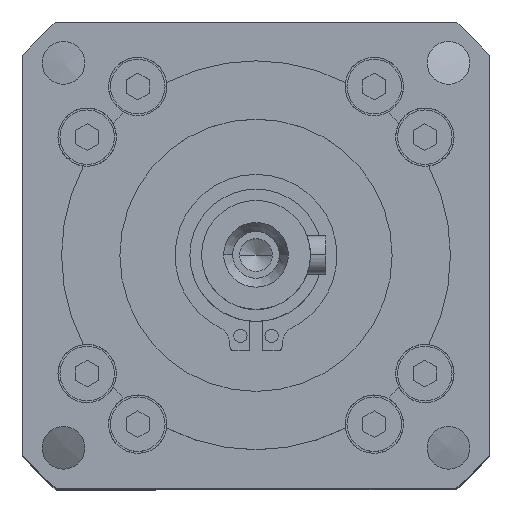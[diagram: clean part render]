
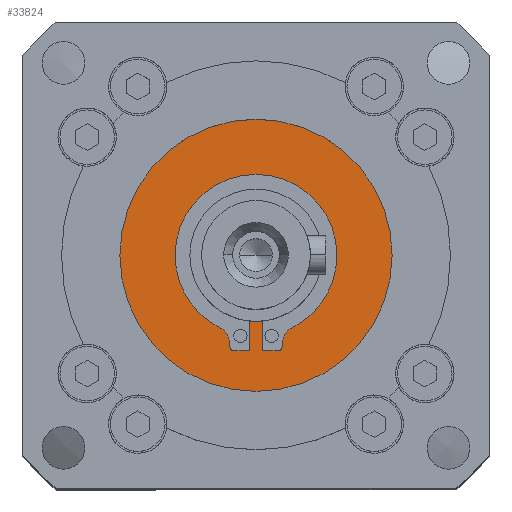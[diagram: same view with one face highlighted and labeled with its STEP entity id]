
A CAD part, top view. The second image highlights one B-rep face of the part: STEP entity #33824.
In plain terms, the highlighted planar face has unit normal (0, 0, 1).
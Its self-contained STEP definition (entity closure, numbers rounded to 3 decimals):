
#639 = DIRECTION ( 'NONE',  ( 0., 1., 0. ) ) ;
#1316 = CARTESIAN_POINT ( 'NONE',  ( 0., 0., -1. ) ) ;
#1506 = CARTESIAN_POINT ( 'NONE',  ( 0.85, -12.257, -1. ) ) ;
#1971 = ORIENTED_EDGE ( 'NONE', *, *, #20340, .F. ) ;
#1981 = ORIENTED_EDGE ( 'NONE', *, *, #19939, .F. ) ;
#2011 = AXIS2_PLACEMENT_3D ( 'NONE', #25566, #25515, #25469 ) ;
#2023 = VERTEX_POINT ( 'NONE', #38043 ) ;
#2283 = CIRCLE ( 'NONE', #11723, 0.5 ) ;
#2600 = EDGE_CURVE ( 'NONE', #12010, #9022, #2283, .T. ) ;
#2921 = VECTOR ( 'NONE', #23717, 1000. ) ;
#3141 = VERTEX_POINT ( 'NONE', #16064 ) ;
#3253 = EDGE_CURVE ( 'NONE', #25729, #3141, #26023, .T. ) ;
#3638 = VECTOR ( 'NONE', #40684, 1000. ) ;
#3845 = CIRCLE ( 'NONE', #24341, 0.5 ) ;
#4014 = VERTEX_POINT ( 'NONE', #1506 ) ;
#4468 = DIRECTION ( 'NONE',  ( -1., 0., 0. ) ) ;
#5018 = CIRCLE ( 'NONE', #21866, 2.5 ) ;
#5273 = VERTEX_POINT ( 'NONE', #24615 ) ;
#5370 = CARTESIAN_POINT ( 'NONE',  ( -10.4, 0., -1. ) ) ;
#6116 = ORIENTED_EDGE ( 'NONE', *, *, #30156, .F. ) ;
#6367 = CIRCLE ( 'NONE', #2011, 2.5 ) ;
#6870 = EDGE_CURVE ( 'NONE', #3141, #2023, #6367, .T. ) ;
#7144 = CARTESIAN_POINT ( 'NONE',  ( 5.85, -11.497, -1. ) ) ;
#7740 = DIRECTION ( 'NONE',  ( 0., -1., 0. ) ) ;
#8489 = ORIENTED_EDGE ( 'NONE', *, *, #40749, .F. ) ;
#8989 = DIRECTION ( 'NONE',  ( -1., 0., 0. ) ) ;
#9022 = VERTEX_POINT ( 'NONE', #26997 ) ;
#9074 = CARTESIAN_POINT ( 'NONE',  ( 4.716, -9.269, -1. ) ) ;
#9662 = CIRCLE ( 'NONE', #28397, 8.5 ) ;
#10363 = CARTESIAN_POINT ( 'NONE',  ( -2.85, -11.757, -1. ) ) ;
#10389 = DIRECTION ( 'NONE',  ( -1., 0., 0. ) ) ;
#10393 = DIRECTION ( 'NONE',  ( 0., 0., 1. ) ) ;
#10403 = DIRECTION ( 'NONE',  ( -1., 0., 0. ) ) ;
#10631 = EDGE_CURVE ( 'NONE', #5273, #32732, #11727, .T. ) ;
#10984 = CARTESIAN_POINT ( 'NONE',  ( -3.35, 0., -1. ) ) ;
#11065 = VERTEX_POINT ( 'NONE', #9074 ) ;
#11147 = DIRECTION ( 'NONE',  ( 0., 0., 1. ) ) ;
#11468 = CIRCLE ( 'NONE', #19963, 17.5 ) ;
#11495 = EDGE_CURVE ( 'NONE', #29733, #14118, #9662, .T. ) ;
#11560 = CARTESIAN_POINT ( 'NONE',  ( 3.35, -11.497, -1. ) ) ;
#11682 = EDGE_LOOP ( 'NONE', ( #40647, #22344 ) ) ;
#11723 = AXIS2_PLACEMENT_3D ( 'NONE', #10363, #10393, #10403 ) ;
#11727 = CIRCLE ( 'NONE', #35114, 17.5 ) ;
#12010 = VERTEX_POINT ( 'NONE', #37770 ) ;
#12708 = EDGE_CURVE ( 'NONE', #29899, #11065, #5018, .T. ) ;
#12963 = DIRECTION ( 'NONE',  ( 0., 0., 1. ) ) ;
#13542 = CARTESIAN_POINT ( 'NONE',  ( -0.85, 0., -1. ) ) ;
#14118 = VERTEX_POINT ( 'NONE', #39271 ) ;
#14621 = VERTEX_POINT ( 'NONE', #24310 ) ;
#16064 = CARTESIAN_POINT ( 'NONE',  ( -4.716, -9.269, -1. ) ) ;
#16345 = CARTESIAN_POINT ( 'NONE',  ( 2.85, -11.757, -1. ) ) ;
#16648 = ORIENTED_EDGE ( 'NONE', *, *, #23030, .F. ) ;
#16794 = ORIENTED_EDGE ( 'NONE', *, *, #25934, .F. ) ;
#17659 = FACE_BOUND ( 'NONE', #40534, .T. ) ;
#17697 = DIRECTION ( 'NONE',  ( 0., 0., 1. ) ) ;
#17767 = CARTESIAN_POINT ( 'NONE',  ( 3.35, -11.757, -1. ) ) ;
#17927 = EDGE_CURVE ( 'NONE', #27823, #29733, #19747, .T. ) ;
#17942 = ORIENTED_EDGE ( 'NONE', *, *, #11495, .F. ) ;
#17964 = CARTESIAN_POINT ( 'NONE',  ( 0., 0., -1. ) ) ;
#18002 = DIRECTION ( 'NONE',  ( 0., 0., 1. ) ) ;
#18008 = DIRECTION ( 'NONE',  ( -1., 0., 0. ) ) ;
#18314 = CARTESIAN_POINT ( 'NONE',  ( 0., 0., -1. ) ) ;
#19609 = DIRECTION ( 'NONE',  ( -1., 0., 0. ) ) ;
#19747 = LINE ( 'NONE', #13542, #35930 ) ;
#19939 = EDGE_CURVE ( 'NONE', #2023, #12010, #21681, .T. ) ;
#19963 = AXIS2_PLACEMENT_3D ( 'NONE', #32358, #12963, #35608 ) ;
#20114 = LINE ( 'NONE', #36396, #2921 ) ;
#20340 = EDGE_CURVE ( 'NONE', #32696, #29899, #20114, .T. ) ;
#20636 = CARTESIAN_POINT ( 'NONE',  ( -0.85, -12.257, -1. ) ) ;
#21144 = CARTESIAN_POINT ( 'NONE',  ( 10.4, 0., -1. ) ) ;
#21581 = DIRECTION ( 'NONE',  ( 1., 0., 0. ) ) ;
#21681 = LINE ( 'NONE', #10984, #29285 ) ;
#21833 = PLANE ( 'NONE',  #37599 ) ;
#21866 = AXIS2_PLACEMENT_3D ( 'NONE', #7144, #29763, #10389 ) ;
#22344 = ORIENTED_EDGE ( 'NONE', *, *, #25898, .T. ) ;
#22442 = VECTOR ( 'NONE', #36239, 1000. ) ;
#23030 = EDGE_CURVE ( 'NONE', #28864, #25729, #27615, .T. ) ;
#23717 = DIRECTION ( 'NONE',  ( 0., 1., 0. ) ) ;
#23877 = DIRECTION ( 'NONE',  ( 0., 0., 1. ) ) ;
#24274 = AXIS2_PLACEMENT_3D ( 'NONE', #37072, #17697, #40284 ) ;
#24310 = CARTESIAN_POINT ( 'NONE',  ( 2.85, -12.257, -1. ) ) ;
#24341 = AXIS2_PLACEMENT_3D ( 'NONE', #16345, #38953, #19609 ) ;
#24615 = CARTESIAN_POINT ( 'NONE',  ( 17.5, 0., -1. ) ) ;
#25469 = DIRECTION ( 'NONE',  ( -1., 0., 0. ) ) ;
#25499 = ORIENTED_EDGE ( 'NONE', *, *, #6870, .F. ) ;
#25515 = DIRECTION ( 'NONE',  ( 0., 0., -1. ) ) ;
#25566 = CARTESIAN_POINT ( 'NONE',  ( -5.85, -11.497, -1. ) ) ;
#25729 = VERTEX_POINT ( 'NONE', #5370 ) ;
#25898 = EDGE_CURVE ( 'NONE', #32732, #5273, #11468, .T. ) ;
#25934 = EDGE_CURVE ( 'NONE', #14621, #32696, #3845, .T. ) ;
#26023 = CIRCLE ( 'NONE', #41126, 10.4 ) ;
#26044 = ORIENTED_EDGE ( 'NONE', *, *, #41447, .F. ) ;
#26226 = ORIENTED_EDGE ( 'NONE', *, *, #17927, .F. ) ;
#26997 = CARTESIAN_POINT ( 'NONE',  ( -2.85, -12.257, -1. ) ) ;
#27615 = CIRCLE ( 'NONE', #24274, 10.4 ) ;
#27823 = VERTEX_POINT ( 'NONE', #20636 ) ;
#28371 = DIRECTION ( 'NONE',  ( 0., 0., -1. ) ) ;
#28397 = AXIS2_PLACEMENT_3D ( 'NONE', #30536, #11147, #33756 ) ;
#28781 = CIRCLE ( 'NONE', #35086, 10.4 ) ;
#28821 = VECTOR ( 'NONE', #36857, 1000. ) ;
#28864 = VERTEX_POINT ( 'NONE', #21144 ) ;
#29285 = VECTOR ( 'NONE', #7740, 1000. ) ;
#29492 = LINE ( 'NONE', #37303, #3638 ) ;
#29733 = VERTEX_POINT ( 'NONE', #32661 ) ;
#29763 = DIRECTION ( 'NONE',  ( 0., 0., -1. ) ) ;
#29899 = VERTEX_POINT ( 'NONE', #11560 ) ;
#30156 = EDGE_CURVE ( 'NONE', #14118, #4014, #31064, .T. ) ;
#30536 = CARTESIAN_POINT ( 'NONE',  ( 0., 0., -1. ) ) ;
#31064 = LINE ( 'NONE', #32882, #22442 ) ;
#31847 = FACE_OUTER_BOUND ( 'NONE', #11682, .T. ) ;
#32358 = CARTESIAN_POINT ( 'NONE',  ( 0., 0., -1. ) ) ;
#32661 = CARTESIAN_POINT ( 'NONE',  ( -0.85, -8.457, -1. ) ) ;
#32696 = VERTEX_POINT ( 'NONE', #17767 ) ;
#32732 = VERTEX_POINT ( 'NONE', #40779 ) ;
#32882 = CARTESIAN_POINT ( 'NONE',  ( 0.85, 0., -1. ) ) ;
#33634 = CARTESIAN_POINT ( 'NONE',  ( 0., -12.257, -1. ) ) ;
#33756 = DIRECTION ( 'NONE',  ( -1., 0., 0. ) ) ;
#33824 = ADVANCED_FACE ( 'NONE', ( #31847, #17659 ), #21833, .F. ) ;
#35086 = AXIS2_PLACEMENT_3D ( 'NONE', #1316, #23877, #4468 ) ;
#35114 = AXIS2_PLACEMENT_3D ( 'NONE', #18314, #40895, #21581 ) ;
#35608 = DIRECTION ( 'NONE',  ( 1., 0., 0. ) ) ;
#35930 = VECTOR ( 'NONE', #639, 1000. ) ;
#36239 = DIRECTION ( 'NONE',  ( 0., -1., 0. ) ) ;
#36396 = CARTESIAN_POINT ( 'NONE',  ( 3.35, 0., -1. ) ) ;
#36489 = EDGE_CURVE ( 'NONE', #4014, #14621, #29492, .T. ) ;
#36857 = DIRECTION ( 'NONE',  ( 1., 0., 0. ) ) ;
#37072 = CARTESIAN_POINT ( 'NONE',  ( 0., 0., -1. ) ) ;
#37127 = ORIENTED_EDGE ( 'NONE', *, *, #2600, .F. ) ;
#37303 = CARTESIAN_POINT ( 'NONE',  ( 0., -12.257, -1. ) ) ;
#37368 = LINE ( 'NONE', #33634, #28821 ) ;
#37599 = AXIS2_PLACEMENT_3D ( 'NONE', #41142, #28371, #8989 ) ;
#37770 = CARTESIAN_POINT ( 'NONE',  ( -3.35, -11.757, -1. ) ) ;
#38043 = CARTESIAN_POINT ( 'NONE',  ( -3.35, -11.497, -1. ) ) ;
#38953 = DIRECTION ( 'NONE',  ( 0., 0., 1. ) ) ;
#39132 = ORIENTED_EDGE ( 'NONE', *, *, #12708, .F. ) ;
#39271 = CARTESIAN_POINT ( 'NONE',  ( 0.85, -8.457, -1. ) ) ;
#39463 = ORIENTED_EDGE ( 'NONE', *, *, #3253, .F. ) ;
#39479 = ORIENTED_EDGE ( 'NONE', *, *, #36489, .F. ) ;
#40284 = DIRECTION ( 'NONE',  ( -1., 0., 0. ) ) ;
#40534 = EDGE_LOOP ( 'NONE', ( #37127, #1981, #25499, #39463, #16648, #26044, #39132, #1971, #16794, #39479, #6116, #17942, #26226, #8489 ) ) ;
#40647 = ORIENTED_EDGE ( 'NONE', *, *, #10631, .T. ) ;
#40684 = DIRECTION ( 'NONE',  ( 1., 0., 0. ) ) ;
#40749 = EDGE_CURVE ( 'NONE', #9022, #27823, #37368, .T. ) ;
#40779 = CARTESIAN_POINT ( 'NONE',  ( -17.5, 0., -1. ) ) ;
#40895 = DIRECTION ( 'NONE',  ( 0., 0., 1. ) ) ;
#41126 = AXIS2_PLACEMENT_3D ( 'NONE', #17964, #18002, #18008 ) ;
#41142 = CARTESIAN_POINT ( 'NONE',  ( 0., 0., -1. ) ) ;
#41447 = EDGE_CURVE ( 'NONE', #11065, #28864, #28781, .T. ) ;
